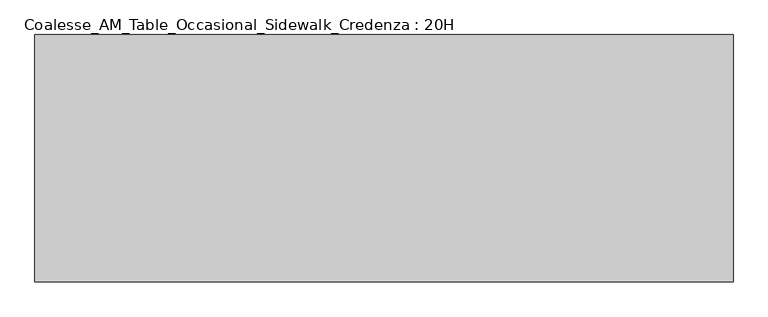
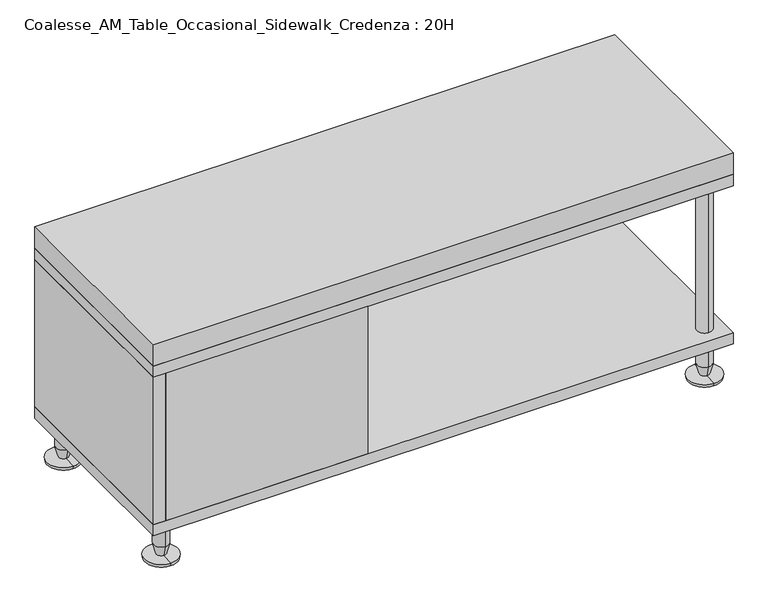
"""IFC4 building model written with IfcOpenShell, lengths in millimetres: furniture geometry, Coalesse_AM_Table_Occasional_Sidewalk_Credenza : 20H."""

from ifc_helpers import new_model, si_unit, frame, origin, place, context, project, spatial, polyline, circle_curve, outline, extrude, source, transform, mapped, element, save
from ifc_brep_helpers import plane_surface, cylinder_surface, revolved_surface, advanced_brep


def coalesse_am_table_occasional_sidewalk_credenza_20h_d59ae3a1(model_context):
    return source(origin(), model_context, "Body", "SolidModel", [
        extrude(outline(polyline([(-778.5128298, -51.1751293), (-778.5128298, -25.7751293), (-353.0629509, -25.7751293), (-353.0629509, -51.1751293), (-778.5128298, -51.1751293)])), frame((0.0, 0.0, 107.950003), z_axis=(0.0, 0.0, 1.0), x_axis=(1.0, 0.0, 0.0)), (0.0, 0.0, 1.0), 327.0250091),
        extrude(outline(polyline([(-778.5128298, 355.2248707), (-778.5128298, 380.6248707), (415.2871702, 380.6248707), (415.2871702, 355.2248707), (-778.5128298, 355.2248707)])), frame((0.0, 0.0, 107.950003), z_axis=(0.0, 0.0, 1.0), x_axis=(1.0, 0.0, 0.0)), (0.0, 0.0, 1.0), 327.0250091),
        extrude(outline(polyline([(-353.0629509, -25.7751293), (-378.4629509, -25.7751293), (-378.4629509, 355.2245944), (-353.0629509, 355.2245944), (-353.0629509, -25.7751293)])), frame((0.0, 0.0, 107.950003), z_axis=(0.0, 0.0, 1.0), x_axis=(1.0, 0.0, 0.0)), (0.0, 0.0, 1.0), 327.0250091),
        advanced_brep(
        [(377.1583442, -28.9501293, 107.950003), (377.1583442, 2.7998707, 107.950003), (377.1583442, 2.7998707, 434.9750121), (377.1583442, -28.9501293, 434.9750121), (377.1583442, -13.0751293, 107.950003), (377.1583442, -13.0751293, 434.9750121)],
        [
            (0, 1, circle_curve(frame((377.1583442, -13.0751293, 107.950003), z_axis=(0.0, 0.0, 1.0), x_axis=(0.0, 1.0, 0.0)), 15.875)),
            (1, 2),
            (2, 3, circle_curve(frame((377.1583442, -13.0751293, 434.9750121), z_axis=(0.0, 0.0, -1.0), x_axis=(0.0, 1.0, 0.0)), 15.875)),
            (3, 0),
            (1, 0, circle_curve(frame((377.1583442, -13.0751293, 107.950003), z_axis=(0.0, 0.0, 1.0), x_axis=(0.0, 1.0, 0.0)), 15.875)),
            (3, 2, circle_curve(frame((377.1583442, -13.0751293, 434.9750121), z_axis=(0.0, 0.0, -1.0), x_axis=(0.0, 1.0, 0.0)), 15.875)),
            (4, 1),
            (0, 4),
            (2, 5),
            (5, 3),
        ],
        [
            cylinder_surface(frame((377.1583442, -13.0751293, -95.25), z_axis=(0.0, 0.0, -1.0), x_axis=(0.0, 1.0, 0.0)), 15.875),
            plane_surface(frame((377.1583442, -13.0751293, 107.950003), z_axis=(0.0, 0.0, -1.0), x_axis=(0.0, 1.0, 0.0))),
            plane_surface(frame((377.1583442, -13.0751293, 434.9750121), z_axis=(0.0, 0.0, 1.0), x_axis=(0.0, 1.0, 0.0))),
        ],
        [
            (0, [[1, 2, 3, 4]]),
            (0, [[5, -4, 6, -2]]),
            (1, [[7, -1, 8]]),
            (1, [[-8, -5, -7]]),
            (2, [[-3, 9, 10]]),
            (2, [[-6, -10, -9]]),
        ],
    ),
        extrude(outline(polyline([(-803.9128298, -51.1751293), (-803.9128298, 380.6248707), (415.2871702, 380.6248707), (415.2871702, -51.1751293), (-803.9128298, -51.1751293)])), frame((0.0, 0.0, 460.3750121), z_axis=(0.0, 0.0, 1.0), x_axis=(1.0, 0.0, 0.0)), (0.0, 0.0, 1.0), 47.6249879),
        extrude(outline(polyline([(-778.5128298, -51.1751293), (-803.9128298, -51.1751293), (-803.9128298, 380.6248707), (-778.5128298, 380.6248707), (-778.5128298, -51.1751293)])), frame((0.0, 0.0, 107.950003), z_axis=(0.0, 0.0, 1.0), x_axis=(1.0, 0.0, 0.0)), (0.0, 0.0, 1.0), 327.0250091),
        extrude(outline(polyline([(-803.9128298, -51.1751293), (-803.9128298, 380.6248707), (415.2871702, 380.6248707), (415.2871702, -51.1751293), (-803.9128298, -51.1751293)])), frame((0.0, 0.0, 434.9750121), z_axis=(0.0, 0.0, 1.0), x_axis=(1.0, 0.0, 0.0)), (0.0, 0.0, 1.0), 25.4),
        extrude(outline(polyline([(-803.9128298, -51.1751293), (-803.9128298, 380.6248707), (415.2871702, 380.6248707), (415.2871702, -51.1751293), (-803.9128298, -51.1751293)])), frame((0.0, 0.0, 82.550003), z_axis=(0.0, 0.0, 1.0), x_axis=(1.0, 0.0, 0.0)), (0.0, 0.0, 1.0), 25.4),
        advanced_brep(
        [(377.1583442, 326.6498707, 31.75), (377.1583442, 358.3998707, 31.75), (377.1583442, 358.3998707, 82.550003), (377.1583442, 326.6498707, 82.550003), (377.1583442, 332.6415173, 8.5001207), (377.1583442, 352.4082242, 8.5001207), (377.1583442, 307.5998707, 6.35), (377.1583442, 377.4498707, 6.35), (377.1583442, 308.658204, 0.0), (377.1583442, 376.3915374, 0.0), (377.1583442, 342.5248707, 0.0), (377.1583442, 342.5248707, 82.550003)],
        [
            (0, 1, circle_curve(frame((377.1583442, 342.5248707, 31.75), z_axis=(0.0, 0.0, 1.0), x_axis=(0.0, 1.0, 0.0)), 15.875)),
            (1, 2),
            (2, 3, circle_curve(frame((377.1583442, 342.5248707, 82.550003), z_axis=(0.0, 0.0, -1.0), x_axis=(0.0, 1.0, 0.0)), 15.875)),
            (3, 0),
            (1, 0, circle_curve(frame((377.1583442, 342.5248707, 31.75), z_axis=(0.0, 0.0, 1.0), x_axis=(0.0, 1.0, 0.0)), 15.875)),
            (3, 2, circle_curve(frame((377.1583442, 342.5248707, 82.550003), z_axis=(0.0, 0.0, -1.0), x_axis=(0.0, 1.0, 0.0)), 15.875)),
            (4, 5, circle_curve(frame((377.1583442, 342.5248707, 8.5001207), z_axis=(0.0, 0.0, 1.0), x_axis=(0.0, 1.0, 0.0)), 9.8833534)),
            (5, 1),
            (0, 4),
            (5, 4, circle_curve(frame((377.1583442, 342.5248707, 8.5001207), z_axis=(0.0, 0.0, 1.0), x_axis=(0.0, 1.0, 0.0)), 9.8833534)),
            (6, 7, circle_curve(frame((377.1583442, 342.5248707, 6.35), z_axis=(0.0, 0.0, 1.0), x_axis=(0.0, 1.0, 0.0)), 34.925)),
            (7, 5),
            (4, 6),
            (7, 6, circle_curve(frame((377.1583442, 342.5248707, 6.35), z_axis=(0.0, 0.0, 1.0), x_axis=(0.0, 1.0, 0.0)), 34.925)),
            (8, 9, circle_curve(frame((377.1583442, 342.5248707, 0.0), z_axis=(0.0, 0.0, 1.0), x_axis=(0.0, 1.0, 0.0)), 33.8666667)),
            (9, 7),
            (6, 8),
            (9, 8, circle_curve(frame((377.1583442, 342.5248707, 0.0), z_axis=(0.0, 0.0, 1.0), x_axis=(0.0, 1.0, 0.0)), 33.8666667)),
            (10, 9),
            (8, 10),
            (2, 11),
            (11, 3),
        ],
        [
            cylinder_surface(frame((377.1583442, 342.5248707, -95.25), z_axis=(0.0, 0.0, -1.0), x_axis=(0.0, 1.0, 0.0)), 15.875),
            revolved_surface(polyline([(377.1583442, 358.3998707, 31.75), (377.1583442, 352.4082242, 8.5001207)]), (377.1583442, 342.5248707, -95.25), (0.0, 0.0, -1.0)),
            revolved_surface(polyline([(377.1583442, 352.4082242, 8.5001207), (377.1583442, 377.4498707, 6.35)]), (377.1583442, 342.5248707, -95.25), (0.0, 0.0, -1.0)),
            revolved_surface(polyline([(377.1583442, 377.4498707, 6.35), (377.1583442, 376.3915374, 0.0)]), (377.1583442, 342.5248707, -95.25), (0.0, 0.0, -1.0)),
            plane_surface(frame((377.1583442, 342.5248707, 0.0), z_axis=(0.0, 0.0, -1.0), x_axis=(0.0, 1.0, 0.0))),
            plane_surface(frame((377.1583442, 342.5248707, 82.550003), z_axis=(0.0, 0.0, 1.0), x_axis=(0.0, 1.0, 0.0))),
        ],
        [
            (0, [[1, 2, 3, 4]]),
            (0, [[5, -4, 6, -2]]),
            (1, [[7, 8, -1, 9]]),
            (1, [[10, -9, -5, -8]]),
            (2, [[11, 12, -7, 13]]),
            (2, [[14, -13, -10, -12]]),
            (3, [[15, 16, -11, 17]]),
            (3, [[18, -17, -14, -16]]),
            (4, [[19, -15, 20]]),
            (4, [[-20, -18, -19]]),
            (5, [[-3, 21, 22]]),
            (5, [[-6, -22, -21]]),
        ],
    ),
        advanced_brep(
        [(-765.8128298, 342.5248707, 82.550003), (-765.8128298, 358.3998707, 82.550003), (-765.8128298, 326.6498707, 82.550003), (-765.8128298, 308.658204, 0.0), (-765.8128298, 376.3915374, 0.0), (-765.8128298, 342.5248707, 0.0), (-765.8128298, 307.5998707, 6.35), (-765.8128298, 377.4498707, 6.35), (-765.8128298, 332.6415173, 8.5001207), (-765.8128298, 352.4082242, 8.5001207), (-765.8128298, 326.6498707, 31.75), (-765.8128298, 358.3998707, 31.75)],
        [
            (0, 1),
            (1, 2, circle_curve(frame((-765.8128298, 342.5248707, 82.550003), z_axis=(0.0, 0.0, 1.0), x_axis=(0.0, 1.0, 0.0)), 15.875)),
            (2, 0),
            (2, 1, circle_curve(frame((-765.8128298, 342.5248707, 82.550003), z_axis=(0.0, 0.0, 1.0), x_axis=(0.0, 1.0, 0.0)), 15.875)),
            (3, 4, circle_curve(frame((-765.8128298, 342.5248707, 0.0), z_axis=(0.0, 0.0, -1.0), x_axis=(0.0, 1.0, 0.0)), 33.8666667)),
            (4, 5),
            (5, 3),
            (4, 3, circle_curve(frame((-765.8128298, 342.5248707, 0.0), z_axis=(0.0, 0.0, -1.0), x_axis=(0.0, 1.0, 0.0)), 33.8666667)),
            (6, 7, circle_curve(frame((-765.8128298, 342.5248707, 6.35), z_axis=(0.0, 0.0, -1.0), x_axis=(0.0, 1.0, 0.0)), 34.925)),
            (7, 4),
            (3, 6),
            (7, 6, circle_curve(frame((-765.8128298, 342.5248707, 6.35), z_axis=(0.0, 0.0, -1.0), x_axis=(0.0, 1.0, 0.0)), 34.925)),
            (8, 9, circle_curve(frame((-765.8128298, 342.5248707, 8.5001207), z_axis=(0.0, 0.0, -1.0), x_axis=(0.0, 1.0, 0.0)), 9.8833534)),
            (9, 7),
            (6, 8),
            (9, 8, circle_curve(frame((-765.8128298, 342.5248707, 8.5001207), z_axis=(0.0, 0.0, -1.0), x_axis=(0.0, 1.0, 0.0)), 9.8833534)),
            (10, 11, circle_curve(frame((-765.8128298, 342.5248707, 31.75), z_axis=(0.0, 0.0, -1.0), x_axis=(0.0, 1.0, 0.0)), 15.875)),
            (11, 9),
            (8, 10),
            (11, 10, circle_curve(frame((-765.8128298, 342.5248707, 31.75), z_axis=(0.0, 0.0, -1.0), x_axis=(0.0, 1.0, 0.0)), 15.875)),
            (1, 11),
            (10, 2),
        ],
        [
            plane_surface(frame((-765.8128298, 342.5248707, 82.550003), z_axis=(0.0, 0.0, 1.0), x_axis=(0.0, 1.0, 0.0))),
            plane_surface(frame((-765.8128298, 342.5248707, 0.0), z_axis=(0.0, 0.0, -1.0), x_axis=(0.0, 1.0, 0.0))),
            revolved_surface(polyline([(-765.8128298, 376.3915374, 0.0), (-765.8128298, 377.4498707, 6.35)]), (-765.8128298, 342.5248707, -95.25), (0.0, 0.0, 1.0)),
            revolved_surface(polyline([(-765.8128298, 377.4498707, 6.35), (-765.8128298, 352.4082242, 8.5001207)]), (-765.8128298, 342.5248707, -95.25), (0.0, 0.0, 1.0)),
            revolved_surface(polyline([(-765.8128298, 352.4082242, 8.5001207), (-765.8128298, 358.3998707, 31.75)]), (-765.8128298, 342.5248707, -95.25), (0.0, 0.0, 1.0)),
            cylinder_surface(frame((-765.8128298, 342.5248707, -95.25), z_axis=(0.0, 0.0, 1.0), x_axis=(0.0, 1.0, 0.0)), 15.875),
        ],
        [
            (0, [[1, 2, 3]]),
            (0, [[-3, 4, -1]]),
            (1, [[5, 6, 7]]),
            (1, [[8, -7, -6]]),
            (2, [[9, 10, -5, 11]]),
            (2, [[12, -11, -8, -10]]),
            (3, [[13, 14, -9, 15]]),
            (3, [[16, -15, -12, -14]]),
            (4, [[17, 18, -13, 19]]),
            (4, [[20, -19, -16, -18]]),
            (5, [[-2, 21, -17, 22]]),
            (5, [[-4, -22, -20, -21]]),
        ],
    ),
        advanced_brep(
        [(377.1583442, -28.9501293, 31.75), (377.1583442, 2.7998707, 31.75), (377.1583442, 2.7998707, 82.550003), (377.1583442, -28.9501293, 82.550003), (377.1583442, -22.9584827, 8.5001207), (377.1583442, -3.1917758, 8.5001207), (377.1583442, -48.0001293, 6.35), (377.1583442, 21.8498707, 6.35), (377.1583442, -46.941796, 0.0), (377.1583442, 20.7915374, 0.0), (377.1583442, -13.0751293, 0.0), (377.1583442, -13.0751293, 82.550003)],
        [
            (0, 1, circle_curve(frame((377.1583442, -13.0751293, 31.75), z_axis=(0.0, 0.0, 1.0), x_axis=(0.0, 1.0, 0.0)), 15.875)),
            (1, 2),
            (2, 3, circle_curve(frame((377.1583442, -13.0751293, 82.550003), z_axis=(0.0, 0.0, -1.0), x_axis=(0.0, 1.0, 0.0)), 15.875)),
            (3, 0),
            (1, 0, circle_curve(frame((377.1583442, -13.0751293, 31.75), z_axis=(0.0, 0.0, 1.0), x_axis=(0.0, 1.0, 0.0)), 15.875)),
            (3, 2, circle_curve(frame((377.1583442, -13.0751293, 82.550003), z_axis=(0.0, 0.0, -1.0), x_axis=(0.0, 1.0, 0.0)), 15.875)),
            (4, 5, circle_curve(frame((377.1583442, -13.0751293, 8.5001207), z_axis=(0.0, 0.0, 1.0), x_axis=(0.0, 1.0, 0.0)), 9.8833534)),
            (5, 1),
            (0, 4),
            (5, 4, circle_curve(frame((377.1583442, -13.0751293, 8.5001207), z_axis=(0.0, 0.0, 1.0), x_axis=(0.0, 1.0, 0.0)), 9.8833534)),
            (6, 7, circle_curve(frame((377.1583442, -13.0751293, 6.35), z_axis=(0.0, 0.0, 1.0), x_axis=(0.0, 1.0, 0.0)), 34.925)),
            (7, 5),
            (4, 6),
            (7, 6, circle_curve(frame((377.1583442, -13.0751293, 6.35), z_axis=(0.0, 0.0, 1.0), x_axis=(0.0, 1.0, 0.0)), 34.925)),
            (8, 9, circle_curve(frame((377.1583442, -13.0751293, 0.0), z_axis=(0.0, 0.0, 1.0), x_axis=(0.0, 1.0, 0.0)), 33.8666667)),
            (9, 7),
            (6, 8),
            (9, 8, circle_curve(frame((377.1583442, -13.0751293, 0.0), z_axis=(0.0, 0.0, 1.0), x_axis=(0.0, 1.0, 0.0)), 33.8666667)),
            (10, 9),
            (8, 10),
            (2, 11),
            (11, 3),
        ],
        [
            cylinder_surface(frame((377.1583442, -13.0751293, -95.25), z_axis=(0.0, 0.0, -1.0), x_axis=(0.0, 1.0, 0.0)), 15.875),
            revolved_surface(polyline([(377.1583442, 2.7998707, 31.75), (377.1583442, -3.1917758, 8.5001207)]), (377.1583442, -13.0751293, -95.25), (0.0, 0.0, -1.0)),
            revolved_surface(polyline([(377.1583442, -3.1917758, 8.5001207), (377.1583442, 21.8498707, 6.35)]), (377.1583442, -13.0751293, -95.25), (0.0, 0.0, -1.0)),
            revolved_surface(polyline([(377.1583442, 21.8498707, 6.35), (377.1583442, 20.7915374, 0.0)]), (377.1583442, -13.0751293, -95.25), (0.0, 0.0, -1.0)),
            plane_surface(frame((377.1583442, -13.0751293, 0.0), z_axis=(0.0, 0.0, -1.0), x_axis=(0.0, 1.0, 0.0))),
            plane_surface(frame((377.1583442, -13.0751293, 82.550003), z_axis=(0.0, 0.0, 1.0), x_axis=(0.0, 1.0, 0.0))),
        ],
        [
            (0, [[1, 2, 3, 4]]),
            (0, [[5, -4, 6, -2]]),
            (1, [[7, 8, -1, 9]]),
            (1, [[10, -9, -5, -8]]),
            (2, [[11, 12, -7, 13]]),
            (2, [[14, -13, -10, -12]]),
            (3, [[15, 16, -11, 17]]),
            (3, [[18, -17, -14, -16]]),
            (4, [[19, -15, 20]]),
            (4, [[-20, -18, -19]]),
            (5, [[-3, 21, 22]]),
            (5, [[-6, -22, -21]]),
        ],
    ),
        advanced_brep(
        [(-765.8128298, -13.0751293, 82.550003), (-765.8128298, 2.7998707, 82.550003), (-765.8128298, -28.9501293, 82.550003), (-765.8128298, -46.941796, 0.0), (-765.8128298, 20.7915374, 0.0), (-765.8128298, -13.0751293, 0.0), (-765.8128298, -48.0001293, 6.35), (-765.8128298, 21.8498707, 6.35), (-765.8128298, -22.9584827, 8.5001207), (-765.8128298, -3.1917758, 8.5001207), (-765.8128298, -28.9501293, 31.75), (-765.8128298, 2.7998707, 31.75)],
        [
            (0, 1),
            (1, 2, circle_curve(frame((-765.8128298, -13.0751293, 82.550003), z_axis=(0.0, 0.0, 1.0), x_axis=(0.0, 1.0, 0.0)), 15.875)),
            (2, 0),
            (2, 1, circle_curve(frame((-765.8128298, -13.0751293, 82.550003), z_axis=(0.0, 0.0, 1.0), x_axis=(0.0, 1.0, 0.0)), 15.875)),
            (3, 4, circle_curve(frame((-765.8128298, -13.0751293, 0.0), z_axis=(0.0, 0.0, -1.0), x_axis=(0.0, 1.0, 0.0)), 33.8666667)),
            (4, 5),
            (5, 3),
            (4, 3, circle_curve(frame((-765.8128298, -13.0751293, 0.0), z_axis=(0.0, 0.0, -1.0), x_axis=(0.0, 1.0, 0.0)), 33.8666667)),
            (6, 7, circle_curve(frame((-765.8128298, -13.0751293, 6.35), z_axis=(0.0, 0.0, -1.0), x_axis=(0.0, 1.0, 0.0)), 34.925)),
            (7, 4),
            (3, 6),
            (7, 6, circle_curve(frame((-765.8128298, -13.0751293, 6.35), z_axis=(0.0, 0.0, -1.0), x_axis=(0.0, 1.0, 0.0)), 34.925)),
            (8, 9, circle_curve(frame((-765.8128298, -13.0751293, 8.5001207), z_axis=(0.0, 0.0, -1.0), x_axis=(0.0, 1.0, 0.0)), 9.8833534)),
            (9, 7),
            (6, 8),
            (9, 8, circle_curve(frame((-765.8128298, -13.0751293, 8.5001207), z_axis=(0.0, 0.0, -1.0), x_axis=(0.0, 1.0, 0.0)), 9.8833534)),
            (10, 11, circle_curve(frame((-765.8128298, -13.0751293, 31.75), z_axis=(0.0, 0.0, -1.0), x_axis=(0.0, 1.0, 0.0)), 15.875)),
            (11, 9),
            (8, 10),
            (11, 10, circle_curve(frame((-765.8128298, -13.0751293, 31.75), z_axis=(0.0, 0.0, -1.0), x_axis=(0.0, 1.0, 0.0)), 15.875)),
            (1, 11),
            (10, 2),
        ],
        [
            plane_surface(frame((-765.8128298, -13.0751293, 82.550003), z_axis=(0.0, 0.0, 1.0), x_axis=(0.0, 1.0, 0.0))),
            plane_surface(frame((-765.8128298, -13.0751293, 0.0), z_axis=(0.0, 0.0, -1.0), x_axis=(0.0, 1.0, 0.0))),
            revolved_surface(polyline([(-765.8128298, 20.7915374, 0.0), (-765.8128298, 21.8498707, 6.35)]), (-765.8128298, -13.0751293, -95.25), (0.0, 0.0, 1.0)),
            revolved_surface(polyline([(-765.8128298, 21.8498707, 6.35), (-765.8128298, -3.1917758, 8.5001207)]), (-765.8128298, -13.0751293, -95.25), (0.0, 0.0, 1.0)),
            revolved_surface(polyline([(-765.8128298, -3.1917758, 8.5001207), (-765.8128298, 2.7998707, 31.75)]), (-765.8128298, -13.0751293, -95.25), (0.0, 0.0, 1.0)),
            cylinder_surface(frame((-765.8128298, -13.0751293, -95.25), z_axis=(0.0, 0.0, 1.0), x_axis=(0.0, 1.0, 0.0)), 15.875),
        ],
        [
            (0, [[1, 2, 3]]),
            (0, [[-3, 4, -1]]),
            (1, [[5, 6, 7]]),
            (1, [[8, -7, -6]]),
            (2, [[9, 10, -5, 11]]),
            (2, [[12, -11, -8, -10]]),
            (3, [[13, 14, -9, 15]]),
            (3, [[16, -15, -12, -14]]),
            (4, [[17, 18, -13, 19]]),
            (4, [[20, -19, -16, -18]]),
            (5, [[-2, 21, -17, 22]]),
            (5, [[-4, -22, -20, -21]]),
        ],
    ),
    ])


if __name__ == "__main__":
    model = new_model("IFC4")
    model_context = context("Model", 3, world=origin())
    ifc_project = project(units=[si_unit("LENGTHUNIT", "METRE", prefix="MILLI")], contexts=[model_context])
    site = spatial("IfcSite", under=ifc_project)
    building = spatial("IfcBuilding", under=site)
    placement = place(None, origin())
    coalesse_am_table_occasional_sidewalk_credenza_20h_shape = coalesse_am_table_occasional_sidewalk_credenza_20h_d59ae3a1(model_context)
    element("IfcFurniture", 1, ObjectType="Coalesse_AM_Table_Occasional_Sidewalk_Credenza : 20H", at=placement, inside=building, context=model_context, shape_type="MappedRepresentation", body=[
        mapped(coalesse_am_table_occasional_sidewalk_credenza_20h_shape, transform((0.0, 0.0, 0.0), x_axis=(1.0, 0.0, 0.0), y_axis=(0.0, 1.0, 0.0), z_axis=(0.0, 0.0, 1.0))),
    ])
    save(model, "model.ifc")
